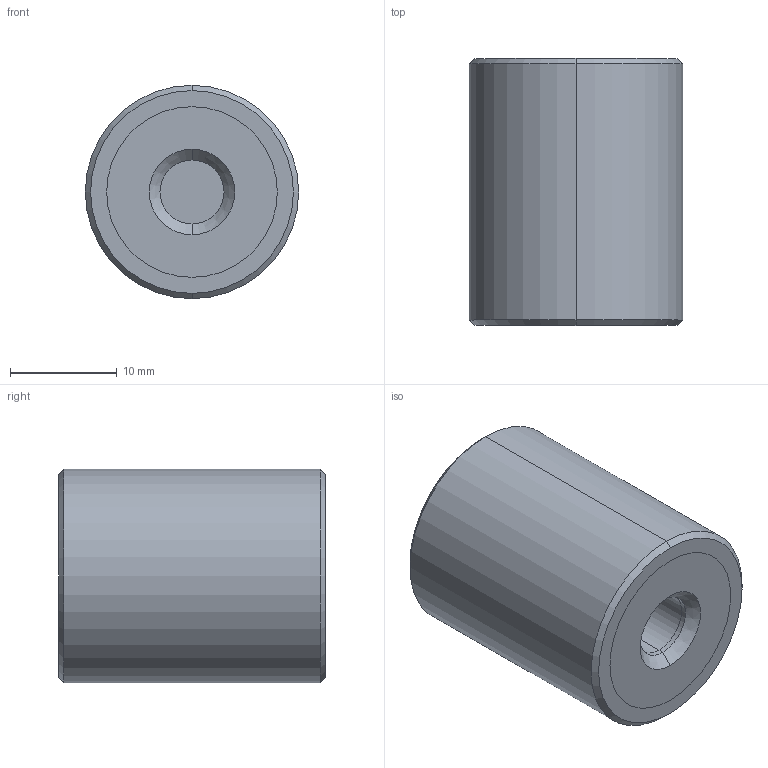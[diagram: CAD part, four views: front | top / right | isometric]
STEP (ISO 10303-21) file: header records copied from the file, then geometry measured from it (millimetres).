
FILE_DESCRIPTION (( 'STEP AP203' ), '1' );
FILE_NAME ('61080.W0202.step', '2018-07-16T20:42:34', ( '' ), ( '' ), 'SwSTEP 2.0', 'SolidWorks 2017', '' );
FILE_SCHEMA (( 'CONFIG_CONTROL_DESIGN' ));
Length unit declared in the file: millimetre
Products named in the file (4): Part3_61080.W0202; Part1_61080.W0202; Part2_61080.W0202; 61080.W0202
Assembly tree (3 placements, depth 2):
  61080.W0202
    Part1_61080.W0202
    Part2_61080.W0202
    Part3_61080.W0202
Bounding box: 20 x 25 x 20 mm (x, y, z)
Volume: 7478.3 mm3; surface area: 3361.1 mm2
Topology: 3 solids, 3 shells, 36 faces, 70 edges, 44 vertices
Faces by surface type: cylinder 18, plane 10, cone 8
Entity records: 1356 total; most frequent: DIRECTION 198, CARTESIAN_POINT 156, ORIENTED_EDGE 140, AXIS2_PLACEMENT_3D 86, EDGE_CURVE 70, EDGE_LOOP 44, VERTEX_POINT 44, CIRCLE 44
